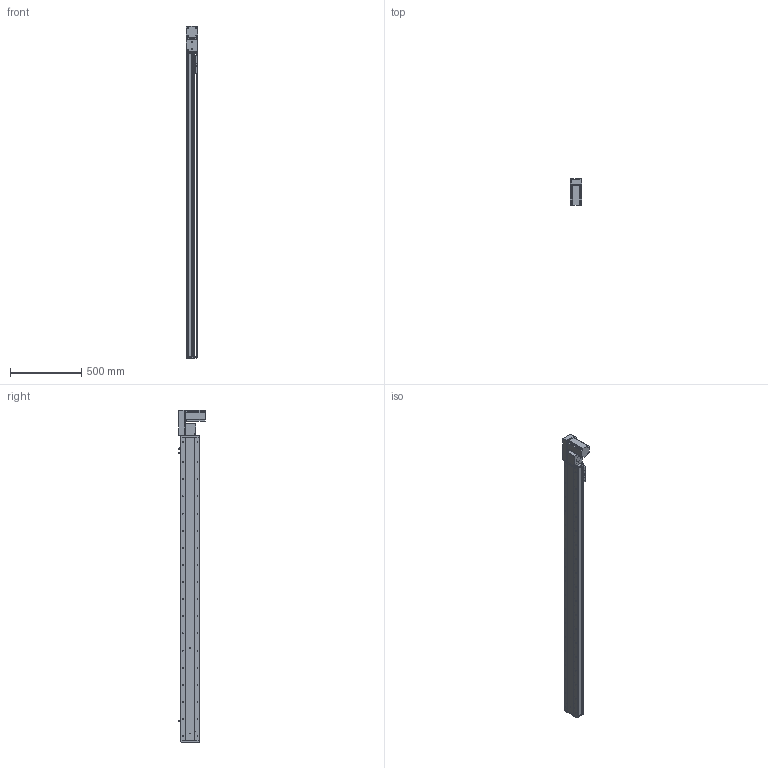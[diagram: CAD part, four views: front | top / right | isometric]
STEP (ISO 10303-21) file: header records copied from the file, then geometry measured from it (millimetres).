
FILE_DESCRIPTION (( 'STEP AP214' ), '1' );
FILE_NAME ('KSD130B-S1900-MRB-CM.STEP', '2019-09-21T07:26:50', ( '微软用户' ), ( '微软中国' ), 'SwSTEP 2.0', 'SolidWorks 2014', '' );
FILE_SCHEMA (( 'AUTOMOTIVE_DESIGN' ));
Length unit declared in the file: millimetre
Products named in the file (12): 台达ECMA－C20807AS伺服电机; 130宽模组保护罩上下左右折-同步带; 130宽模组马达安装板连板左右折同步带; 覜茼え100遵圉猾敕; U倰嫖萇EEㄜSX672; 130宽盖板半封闭同步带-1900行程; 130宽马达安装板同步带右-改镜向_默认<按加工>; 130宽马达安装板同步带半封闭; 130宽同步带安装座半封闭; 130宽端盖同步带半封闭; 130宽底板半封闭同步带-1900行程; KSD130B-S1900-MRB-CM
Assembly tree (13 placements, depth 2):
  KSD130B-S1900-MRB-CM
    130宽底板半封闭同步带-1900行程
    130宽端盖同步带半封闭
    130宽同步带安装座半封闭
    130宽马达安装板同步带半封闭
    130宽马达安装板同步带右-改镜向_默认<按加工>
    130宽盖板半封闭同步带-1900行程
    U倰嫖萇EEㄜSX672  x3
    覜茼え100遵圉猾敕
    130宽模组马达安装板连板左右折同步带
    130宽模组保护罩上下左右折-同步带
    台达ECMA－C20807AS伺服电机
Bounding box: 81 x 184.8 x 2327 mm (x, y, z)
Volume: 7416640.6 mm3; surface area: 2106736.5 mm2
Topology: 14 solids, 14 shells, 1757 faces, 5121 edges, 3241 vertices
Faces by surface type: cylinder 868, plane 654, cone 235
Entity records: 60099 total; most frequent: CARTESIAN_POINT 11670, DIRECTION 9043, ORIENTED_EDGE 8758, EDGE_CURVE 4379, AXIS2_PLACEMENT_3D 3334, VERTEX_POINT 2865, LINE 2375, VECTOR 2375
